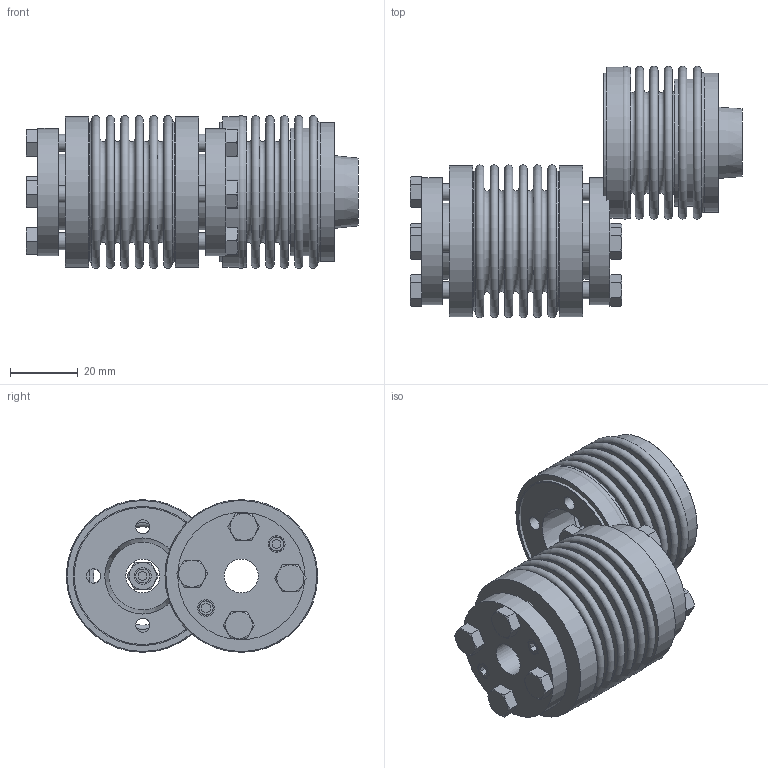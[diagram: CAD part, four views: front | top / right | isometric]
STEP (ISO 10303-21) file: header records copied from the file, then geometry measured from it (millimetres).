
FILE_DESCRIPTION( ( 'Unknown' ), '1' );
FILE_NAME( 'C:/Dokumente und Einstellungen/Sven/Desktop/homepage/cad - homepage/KB5/KB5-18-63.stp', 'Unknown', ( 'Unknown' ), ( 'Unknown' ), 'XStep 1.0', 'Unknown', ' ' );
FILE_SCHEMA( ( 'automotive_design' ) );
Length unit declared in the file: millimetre
Products named in the file (6): Assem1; Socket Set Screw Cup Point_DIN_DIN 916 - M5 x 6-N; KB18_Standard; Hex Screw GradeC_DIN_ISO 4018 - M5 x 16-NN; BA18_Standard; BK18_Standard
Bounding box: 97.85 x 74.05 x 45 mm (x, y, z)
Volume: 68284.5 mm3; surface area: 82784.6 mm2
Topology: 22 solids, 22 shells, 395 faces, 839 edges, 535 vertices
Faces by surface type: plane 187, cone 84, cylinder 76, torus 48
Full cylindrical faces by diameter (mm): 4.2 x18, 5 x14, 5.5 x12, 10 x3, 22.4 x3, 37.5 x3, 40.4 x4, 41 x4, 44.5 x3
Entity records: 2839 total; most frequent: DIRECTION 504, CARTESIAN_POINT 452, ORIENTED_EDGE 316, AXIS2_PLACEMENT_3D 233, EDGE_LOOP 204, EDGE_CURVE 158, FACE_OUTER_BOUND 151, VERTEX_POINT 133
